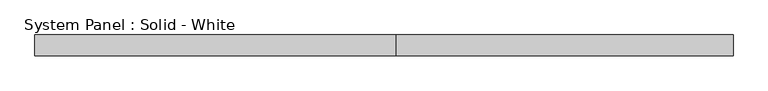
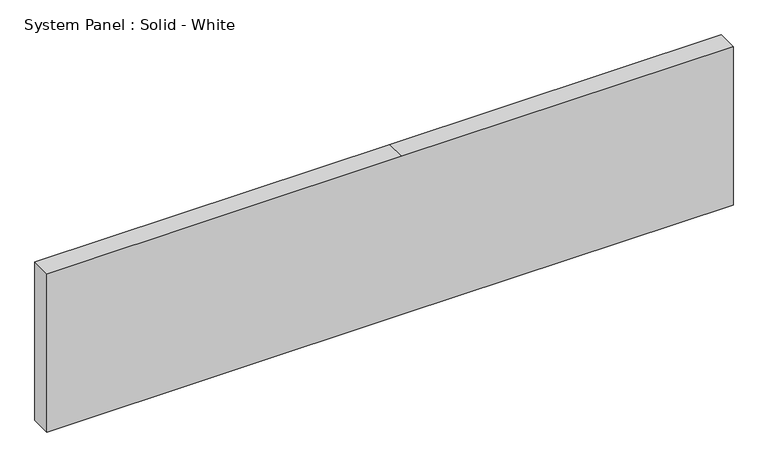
"""IFC4 building model written with IfcOpenShell, lengths in millimetres: plate geometry, System Panel : Solid - White."""

import ifcopenshell
import ifcopenshell.guid

model = None  # the IFC model being written
_history = None  # IfcOwnerHistory: only IFC2X3 demands one
_inside = {}  # id of a spatial element -> (the spatial element, [elements in it])
_under = {}  # id of a project, library or spatial element -> (it, [spatial elements below it])
_declared = {}  # id of a project -> (the project, [libraries it declares])
_typed = {}  # id of a type object -> (the type object, [elements of that type])
_made_of = {}  # id of a material, layer set ... -> (it, [elements and type objects made of it])


def new_model(schema):
    """Start an empty IFC model of exactly this schema.

    Asked for "IFC4X3", IfcOpenShell would pick the latest addendum, in which some entities
    have other attributes; the version numbers below select the first issue.
    IFC2X3 requires an IfcOwnerHistory on every rooted entity: one is made here for all.
    """
    global model, _history
    if schema == "IFC4X3":
        model = ifcopenshell.file(schema_version=(4, 3, 0, 0))
    else:
        model = ifcopenshell.file(schema=schema)
    _inside.clear()
    _under.clear()
    _declared.clear()
    _typed.clear()
    _made_of.clear()
    _history = None
    if model.schema == "IFC2X3":
        org = make("IfcOrganization", Name="unknown")
        user = make(
            "IfcPersonAndOrganization",
            ThePerson=make("IfcPerson", FamilyName="unknown"),
            TheOrganization=org,
        )
        app = make(
            "IfcApplication",
            ApplicationDeveloper=org,
            Version="unknown",
            ApplicationFullName="unknown",
            ApplicationIdentifier="unknown",
        )
        _history = make(
            "IfcOwnerHistory",
            OwningUser=user,
            OwningApplication=app,
            ChangeAction="ADDED",
            CreationDate=0,
        )
    return model


def make(cls, **values):
    """One entity of the class cls with the attributes given. An attribute that is None is left unset."""
    return model.create_entity(
        cls, **{name: value for name, value in values.items() if value is not None}
    )


def rooted(cls, **values):
    """An entity with a GlobalId (a new one), such as an element, a storey or a relation."""
    return make(cls, GlobalId=ifcopenshell.guid.new(), OwnerHistory=_history, **values)


def si_unit(unit_type, name, prefix=None):
    """IfcSIUnit, for example si_unit("LENGTHUNIT", "METRE", prefix="MILLI")."""
    return make("IfcSIUnit", UnitType=unit_type, Prefix=prefix, Name=name)


def assignment(units):
    """IfcUnitAssignment: the units of a project."""
    return None if units is None else make("IfcUnitAssignment", Units=units)


def point(xyz):
    """IfcCartesianPoint."""
    return None if xyz is None else make("IfcCartesianPoint", Coordinates=xyz)


def direction(xyz):
    """IfcDirection."""
    return None if xyz is None else make("IfcDirection", DirectionRatios=xyz)


def frame(location, z_axis=None, x_axis=None):
    """IfcAxis2Placement3D, a coordinate frame: its origin and axes. An axis left out is left unset."""
    return make(
        "IfcAxis2Placement3D",
        Location=point(location),
        Axis=direction(z_axis),
        RefDirection=direction(x_axis),
    )


def origin():
    """The frame at (0, 0, 0) with its axes left unset."""
    return frame((0.0, 0.0, 0.0))


def place(relative_to, where):
    """IfcLocalPlacement: puts the frame where relative to a parent placement (None: the world)."""
    return make(
        "IfcLocalPlacement", PlacementRelTo=relative_to, RelativePlacement=where
    )


def context(
    kind, dimensions, precision=None, world=None, true_north=None, identifier=None
):
    """IfcGeometricRepresentationContext, for example the 3D "Model" context."""
    return make(
        "IfcGeometricRepresentationContext",
        ContextIdentifier=identifier,
        ContextType=kind,
        CoordinateSpaceDimension=dimensions,
        Precision=precision,
        WorldCoordinateSystem=world,
        TrueNorth=true_north,
    )


def project(units=None, contexts=None):
    """IfcProject with its units and contexts."""
    return rooted(
        "IfcProject",
        Name="project",
        RepresentationContexts=contexts,
        UnitsInContext=assignment(units),
    )


def spatial(cls, under=None, at=None, **own):
    """A site, building, storey or space (cls), placed at a placement, below another one or the project."""
    s = rooted(cls, ObjectPlacement=at, **own)
    if under is not None:
        _under.setdefault(under.id(), (under, []))[1].append(s)
    return s


def polyline(points):
    """IfcPolyline through the points."""
    return make("IfcPolyline", Points=[point(p) for p in points])


def outline(outer, holes=None, kind="AREA"):
    """IfcArbitraryClosedProfileDef: a profile drawn as a closed curve; with holes, ...WithVoids."""
    if holes is None:
        return make("IfcArbitraryClosedProfileDef", ProfileType=kind, OuterCurve=outer)
    return make(
        "IfcArbitraryProfileDefWithVoids",
        ProfileType=kind,
        OuterCurve=outer,
        InnerCurves=holes,
    )


def extrude(swept, where, along, depth):
    """IfcExtrudedAreaSolid: the profile swept, set in the frame where, extruded along a direction by depth."""
    return make(
        "IfcExtrudedAreaSolid",
        SweptArea=swept,
        Position=where,
        ExtrudedDirection=direction(along),
        Depth=depth,
    )


def shape(context_of_items, identifier, shape_type, items):
    """IfcShapeRepresentation: the items that make up one representation, for example the "Body"."""
    return make(
        "IfcShapeRepresentation",
        ContextOfItems=context_of_items,
        RepresentationIdentifier=identifier,
        RepresentationType=shape_type,
        Items=items,
    )


def source(mapping_origin, context_of_items, identifier, shape_type, items):
    """IfcRepresentationMap: a shape defined once, which mapped items show again and again."""
    return make(
        "IfcRepresentationMap",
        MappingOrigin=mapping_origin,
        MappedRepresentation=shape(context_of_items, identifier, shape_type, items),
    )


def transform(
    local_origin,
    x_axis=None,
    y_axis=None,
    z_axis=None,
    scale=None,
    scale2=None,
    scale3=None,
    uniform=True,
):
    """IfcCartesianTransformationOperator3D, or its non-uniform kind. x_axis, y_axis, z_axis: its Axis1, 2, 3."""
    if uniform:
        return make(
            "IfcCartesianTransformationOperator3D",
            Axis1=direction(x_axis),
            Axis2=direction(y_axis),
            LocalOrigin=point(local_origin),
            Scale=scale,
            Axis3=direction(z_axis),
        )
    return make(
        "IfcCartesianTransformationOperator3DnonUniform",
        Axis1=direction(x_axis),
        Axis2=direction(y_axis),
        LocalOrigin=point(local_origin),
        Scale=scale,
        Axis3=direction(z_axis),
        Scale2=scale2,
        Scale3=scale3,
    )


def mapped(mapping_source, mapping_target):
    """IfcMappedItem: shows the shape of a source again, moved by a transform."""
    return make(
        "IfcMappedItem", MappingSource=mapping_source, MappingTarget=mapping_target
    )


def made_of(thing, what):
    """Note that an element or type object is made of a material, layer set ...; save() writes the relation."""
    if what is not None:
        _made_of.setdefault(what.id(), (what, []))[1].append(thing)
    return thing


def element(
    cls,
    number,
    at=None,
    inside=None,
    cuts=None,
    type_object=None,
    material=None,
    context=None,
    identifier="Body",
    shape_type=None,
    held_by="IfcProductDefinitionShape",
    body=None,
    shapes=None,
    **own,
):
    """One element of the class cls, such as IfcWall. Its Tag is "e" and its number.

    at: its placement. inside: the storey or other place that contains it. cuts: it is an
    opening in that element (IfcRelVoidsElement). A single representation is given by context,
    identifier, shape_type and body (its items); several are given by shapes. held_by: the class
    of the entity that holds the representations. save() writes the other relations.
    """
    e = rooted(cls, Tag="e%d" % number, ObjectPlacement=at, **own)
    if body is not None:
        shapes = [shape(context, identifier, shape_type, body)]
    if shapes is not None:
        e.Representation = make(held_by, Representations=shapes)
    if inside is not None:
        _inside.setdefault(inside.id(), (inside, []))[1].append(e)
    if cuts is not None:
        rooted(
            "IfcRelVoidsElement", RelatingBuildingElement=cuts, RelatedOpeningElement=e
        )
    if type_object is not None:
        _typed.setdefault(type_object.id(), (type_object, []))[1].append(e)
    return made_of(e, material)


def aggregate(whole, parts):
    """IfcRelAggregates: a whole, such as a stair, and the parts it consists of."""
    return rooted("IfcRelAggregates", RelatingObject=whole, RelatedObjects=parts)


def save(model, path):
    """Write the relations noted so far, then the file.

    IfcRelAggregates (storeys below a building ...), IfcRelContainedInSpatialStructure (elements
    in a storey), IfcRelDefinesByType, IfcRelAssociatesMaterial and IfcRelDeclares: one each for
    every whole, place, type object, material and project.
    """
    for whole, parts in _under.values():
        aggregate(whole, parts)
    for where, things in _inside.values():
        rooted(
            "IfcRelContainedInSpatialStructure",
            RelatedElements=things,
            RelatingStructure=where,
        )
    for kind, things in _typed.values():
        rooted("IfcRelDefinesByType", RelatedObjects=things, RelatingType=kind)
    for what, things in _made_of.values():
        rooted("IfcRelAssociatesMaterial", RelatedObjects=things, RelatingMaterial=what)
    for by, libraries in _declared.values():
        rooted("IfcRelDeclares", RelatingContext=by, RelatedDefinitions=libraries)
    model.write(path)


def system_panel_solid_white_ddb6fdde(model_context):
    return source(origin(), model_context, "Body", "SweptSolid", [
        extrude(outline(polyline([(0.0, -1053.1928571), (0.0, 36.2857145), (0.0, 1053.1928571), (514.35, 1053.1928571), (514.35, 36.2857145), (514.35, -1053.1928571), (0.0, -1053.1928571)])), frame((0.0, -19.05, 0.0), z_axis=(0.0, 1.0, 0.0), x_axis=(0.0, 0.0, 1.0)), (0.0, 0.0, 1.0), 63.5),
    ])


if __name__ == "__main__":
    model = new_model("IFC4")
    model_context = context("Model", 3, world=origin())
    ifc_project = project(units=[si_unit("LENGTHUNIT", "METRE", prefix="MILLI")], contexts=[model_context])
    site = spatial("IfcSite", under=ifc_project)
    building = spatial("IfcBuilding", under=site)
    placement = place(None, origin())
    system_panel_solid_white_shape = system_panel_solid_white_ddb6fdde(model_context)
    element("IfcPlate", 1, ObjectType="System Panel : Solid - White", at=placement, inside=building, context=model_context, shape_type="MappedRepresentation", body=[
        mapped(system_panel_solid_white_shape, transform((0.0, 0.0, 0.0), x_axis=(1.0, 0.0, 0.0), y_axis=(0.0, 1.0, 0.0), z_axis=(0.0, 0.0, 1.0))),
    ])
    save(model, "model.ifc")
